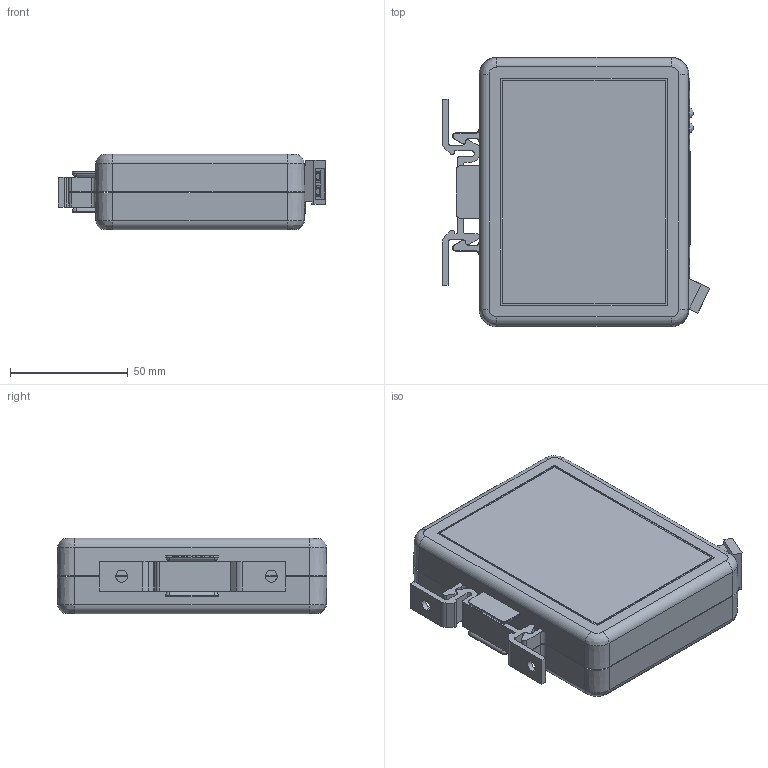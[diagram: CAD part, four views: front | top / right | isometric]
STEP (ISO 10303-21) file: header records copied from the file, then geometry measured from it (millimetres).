
FILE_DESCRIPTION (( 'STEP AP203' ), '1' );
FILE_NAME ('MR380-1.STEP', '2013-09-24T21:26:47', ( '' ), ( '' ), 'SwSTEP 2.0', 'SolidWorks 2013', '' );
FILE_SCHEMA (( 'CONFIG_CONTROL_DESIGN' ));
Length unit declared in the file: inch
Products named in the file (1): MR380-1
Bounding box: 113.41 x 114.6 x 32 mm (x, y, z)
Surface area: 42247.2 mm2 (no closed solid volume)
Topology: 0 solids, 121 shells, 656 faces, 3872 edges, 3309 vertices
Faces by surface type: plane 487, cylinder 84, cone 42, bspline 27, sphere 12, torus 4
Entity records: 51681 total; most frequent: CARTESIAN_POINT 24646, ORIENTED_EDGE 4972, DIRECTION 4450, EDGE_CURVE 3868, VERTEX_POINT 3309, LINE 2474, VECTOR 2474, B_SPLINE_CURVE_WITH_KNOTS 1005
